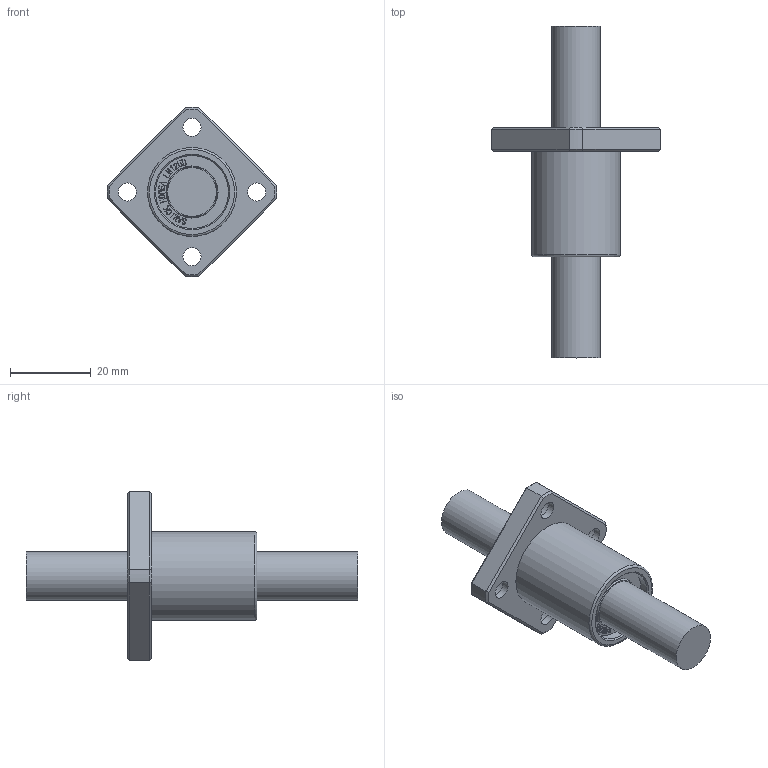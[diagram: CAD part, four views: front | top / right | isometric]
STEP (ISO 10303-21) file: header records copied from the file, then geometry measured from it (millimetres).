
FILE_DESCRIPTION(/* description */ (''),/* implementation_level */ '2;1');
FILE_NAME(/* name */ 'W:\(01) 2024년 홈페이지 CAD파일 최신화\LMEK\IPT\LMEK12UU.stp',/* time_stamp */ '2025-01-25T10:45:54+09:00',/* author */ ('서우현'),/* organization */ (''),/* preprocessor_version */ 'ST-DEVELOPER v17.2',/* originating_system */ 'Autodesk Inventor 2019',/* authorisation */ '');
FILE_SCHEMA (('AUTOMOTIVE_DESIGN { 1 0 10303 214 3 1 1 }'));
Length unit declared in the file: millimetre
Products named in the file (1): LM5
Bounding box: 41.98 x 82 x 41.98 mm (x, y, z)
Volume: 19979.4 mm3; surface area: 7233.6 mm2
Topology: 1 solids, 1 shells, 856 faces, 2408 edges, 1608 vertices
Faces by surface type: bspline 580, plane 244, cylinder 18, cone 12, torus 2
Full cylindrical faces by diameter (mm): 4.5 x4, 8 x4, 12 x2, 18 x2, 22 x2
Entity records: 29383 total; most frequent: CARTESIAN_POINT 10785, ORIENTED_EDGE 4816, EDGE_CURVE 2408, DIRECTION 1868, VERTEX_POINT 1608, B_SPLINE_CURVE_WITH_KNOTS 1160, LINE 1150, VECTOR 1150
